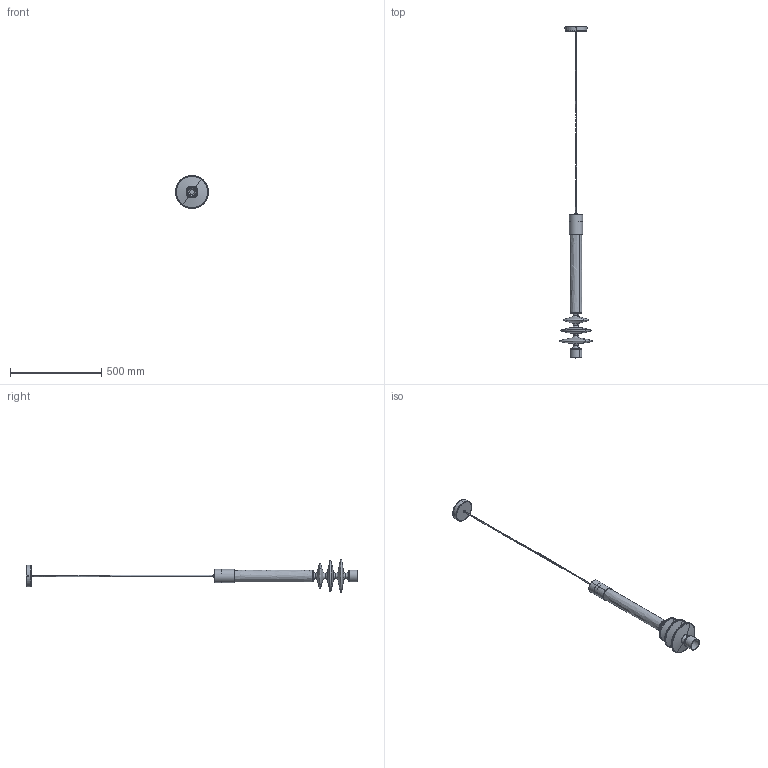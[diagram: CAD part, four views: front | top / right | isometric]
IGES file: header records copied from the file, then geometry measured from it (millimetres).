
Start section: SolidWorks IGES file using analytic representation for surfaces
Global section: file name: G:\Drive condivisi\Ufficio Tecnico\Research\X21 Filamento\Progetto\ATC-X21-S6 Sop. Vert\Architetti\Filamento Vertical 79.IGS; native system: SolidWorks 2025; preprocessor: SolidWorks 2025; author: Tecnico01; date: 260430.113448; units: millimetre
Bounding box: 179.99 x 1822 x 180 mm (x, y, z)
Surface area: 622735.2 mm2 (no closed solid volume)
Topology: 0 solids, 0 shells, 282 faces, 3928 edges, 3924 vertices
Faces by surface type: revolution 143, bspline 139
